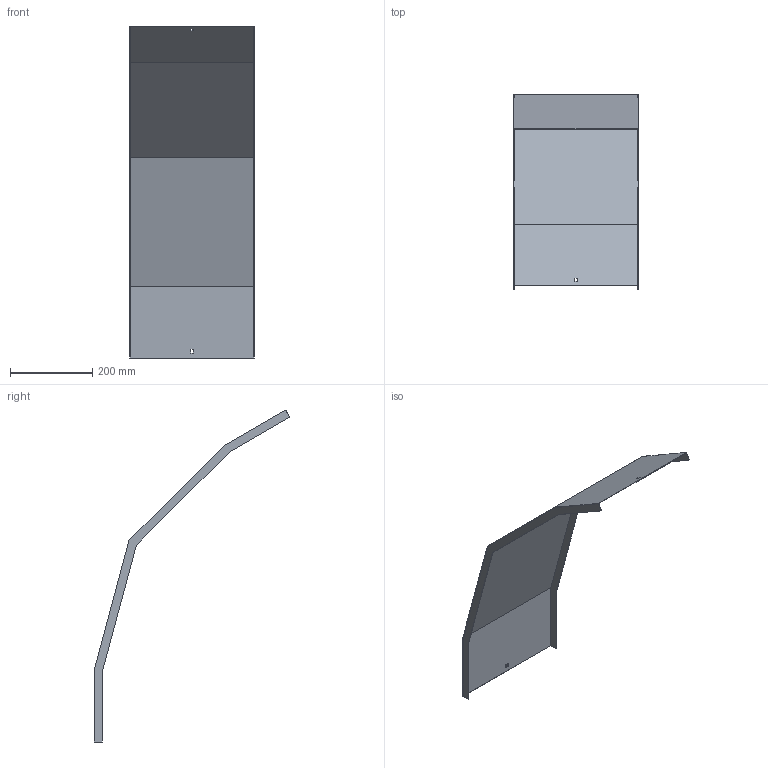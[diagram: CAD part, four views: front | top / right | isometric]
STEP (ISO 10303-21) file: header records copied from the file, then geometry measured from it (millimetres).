
FILE_DESCRIPTION (( 'STEP AP214' ), '1' );
FILE_NAME ('41N5F300.step', '2025-02-21T14:25:10', ( '' ), ( '' ), 'SwSTEP 2.0', 'SolidWorks 2023', '' );
FILE_SCHEMA (( 'AUTOMOTIVE_DESIGN' ));
Length unit declared in the file: millimetre
Products named in the file (1): 41N5F300
Bounding box: 303 x 475.35 x 806.02 mm (x, y, z)
Volume: 508446 mm3; surface area: 681977.4 mm2
Topology: 1 solids, 1 shells, 30 faces, 84 edges, 56 vertices
Faces by surface type: plane 30
Entity records: 979 total; most frequent: CARTESIAN_POINT 171, ORIENTED_EDGE 168, DIRECTION 146, VECTOR 84, LINE 84, EDGE_CURVE 84, VERTEX_POINT 56, EDGE_LOOP 34
